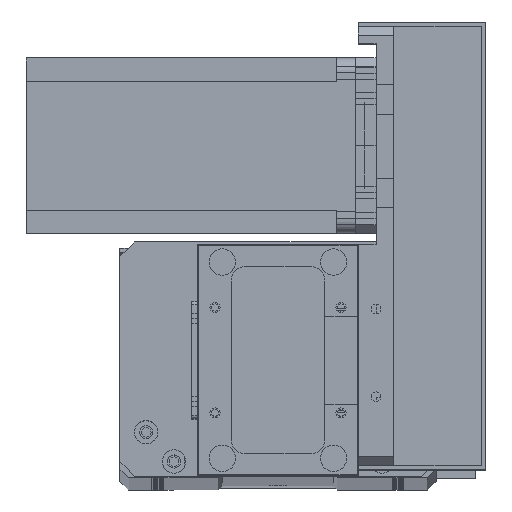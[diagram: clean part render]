
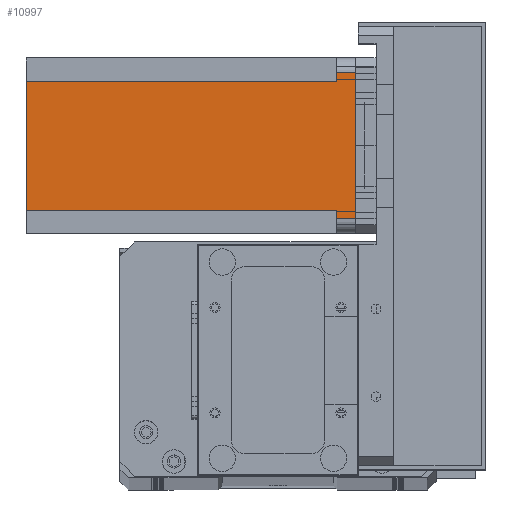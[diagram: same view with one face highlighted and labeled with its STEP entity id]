
A CAD part, top view. The second image highlights one B-rep face of the part: STEP entity #10997.
In plain terms, the highlighted planar face has unit normal (0, 0, 1) as drawn and (0, 1, 0) by its records, which use the part's own axes.
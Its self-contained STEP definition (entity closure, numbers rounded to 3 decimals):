
#1165 = EDGE_CURVE ( 'NONE', #12889, #5177, #16444, .T. ) ;
#2224 = CARTESIAN_POINT ( 'NONE',  ( 0., 60., -112.5 ) ) ;
#2310 = VERTEX_POINT ( 'NONE', #12654 ) ;
#2772 = PLANE ( 'NONE',  #24832 ) ;
#2968 = CARTESIAN_POINT ( 'NONE',  ( 55., 60., -112.5 ) ) ;
#3387 = CARTESIAN_POINT ( 'NONE',  ( 0., 60., 0. ) ) ;
#4370 = EDGE_CURVE ( 'NONE', #30077, #19371, #29351, .T. ) ;
#5177 = VERTEX_POINT ( 'NONE', #12394 ) ;
#5387 = DIRECTION ( 'NONE',  ( 0., 0., 1. ) ) ;
#6708 = LINE ( 'NONE', #14339, #12862 ) ;
#7615 = CARTESIAN_POINT ( 'NONE',  ( 8., 60., -6.5 ) ) ;
#8250 = DIRECTION ( 'NONE',  ( 0., 0., -1. ) ) ;
#8580 = CARTESIAN_POINT ( 'NONE',  ( 52., 60., -112.5 ) ) ;
#8841 = CARTESIAN_POINT ( 'NONE',  ( 8., 60., -112.5 ) ) ;
#8862 = CARTESIAN_POINT ( 'NONE',  ( 5., 60., -6.5 ) ) ;
#9194 = DIRECTION ( 'NONE',  ( 0., 0., -1. ) ) ;
#9281 = VECTOR ( 'NONE', #13978, 1000. ) ;
#9298 = DIRECTION ( 'NONE',  ( 0., 0., 1. ) ) ;
#9601 = CARTESIAN_POINT ( 'NONE',  ( 52., 60., -6.5 ) ) ;
#10028 = ORIENTED_EDGE ( 'NONE', *, *, #4370, .T. ) ;
#10235 = LINE ( 'NONE', #2968, #24968 ) ;
#10337 = VECTOR ( 'NONE', #16466, 1000. ) ;
#10372 = CARTESIAN_POINT ( 'NONE',  ( 55., 60., -6.5 ) ) ;
#10565 = ORIENTED_EDGE ( 'NONE', *, *, #14313, .T. ) ;
#10692 = EDGE_CURVE ( 'NONE', #30077, #13009, #6708, .T. ) ;
#10988 = VECTOR ( 'NONE', #14665, 1000. ) ;
#10997 = ADVANCED_FACE ( 'NONE', ( #25518 ), #2772, .T. ) ;
#12394 = CARTESIAN_POINT ( 'NONE',  ( 5., 60., 0. ) ) ;
#12654 = CARTESIAN_POINT ( 'NONE',  ( 52., 60., -112.5 ) ) ;
#12862 = VECTOR ( 'NONE', #9194, 1000. ) ;
#12889 = VERTEX_POINT ( 'NONE', #26581 ) ;
#13009 = VERTEX_POINT ( 'NONE', #8841 ) ;
#13978 = DIRECTION ( 'NONE',  ( -1., 0., 0. ) ) ;
#14114 = ORIENTED_EDGE ( 'NONE', *, *, #20905, .F. ) ;
#14313 = EDGE_CURVE ( 'NONE', #19371, #5177, #25798, .T. ) ;
#14339 = CARTESIAN_POINT ( 'NONE',  ( 8., 60., -112.5 ) ) ;
#14665 = DIRECTION ( 'NONE',  ( 1., 0., 0. ) ) ;
#16437 = DIRECTION ( 'NONE',  ( -1., 0., 0. ) ) ;
#16444 = LINE ( 'NONE', #3387, #29568 ) ;
#16466 = DIRECTION ( 'NONE',  ( 0., 0., 1. ) ) ;
#17283 = EDGE_LOOP ( 'NONE', ( #22762, #23320, #14114, #25706, #33929, #27299, #10028, #10565 ) ) ;
#17298 = LINE ( 'NONE', #8580, #10337 ) ;
#17788 = DIRECTION ( 'NONE',  ( -1., 0., 0. ) ) ;
#17971 = LINE ( 'NONE', #25062, #10988 ) ;
#19308 = VECTOR ( 'NONE', #9298, 1000. ) ;
#19371 = VERTEX_POINT ( 'NONE', #8862 ) ;
#19718 = CARTESIAN_POINT ( 'NONE',  ( 5., 60., -112.5 ) ) ;
#19869 = EDGE_CURVE ( 'NONE', #12889, #25497, #10235, .T. ) ;
#20552 = EDGE_CURVE ( 'NONE', #2310, #13009, #26986, .T. ) ;
#20874 = VECTOR ( 'NONE', #17788, 1000. ) ;
#20905 = EDGE_CURVE ( 'NONE', #26409, #25497, #17971, .T. ) ;
#21089 = DIRECTION ( 'NONE',  ( 0., 1., 0. ) ) ;
#22762 = ORIENTED_EDGE ( 'NONE', *, *, #1165, .F. ) ;
#23320 = ORIENTED_EDGE ( 'NONE', *, *, #19869, .T. ) ;
#24832 = AXIS2_PLACEMENT_3D ( 'NONE', #26222, #21089, #5387 ) ;
#24968 = VECTOR ( 'NONE', #8250, 1000. ) ;
#25062 = CARTESIAN_POINT ( 'NONE',  ( 52., 60., -6.5 ) ) ;
#25078 = EDGE_CURVE ( 'NONE', #2310, #26409, #17298, .T. ) ;
#25497 = VERTEX_POINT ( 'NONE', #10372 ) ;
#25518 = FACE_OUTER_BOUND ( 'NONE', #17283, .T. ) ;
#25706 = ORIENTED_EDGE ( 'NONE', *, *, #25078, .F. ) ;
#25798 = LINE ( 'NONE', #19718, #19308 ) ;
#26222 = CARTESIAN_POINT ( 'NONE',  ( 0., 60., -112.5 ) ) ;
#26409 = VERTEX_POINT ( 'NONE', #9601 ) ;
#26581 = CARTESIAN_POINT ( 'NONE',  ( 55., 60., 0. ) ) ;
#26986 = LINE ( 'NONE', #2224, #20874 ) ;
#27299 = ORIENTED_EDGE ( 'NONE', *, *, #10692, .F. ) ;
#29351 = LINE ( 'NONE', #32344, #9281 ) ;
#29568 = VECTOR ( 'NONE', #16437, 1000. ) ;
#30077 = VERTEX_POINT ( 'NONE', #7615 ) ;
#32344 = CARTESIAN_POINT ( 'NONE',  ( 8., 60., -6.5 ) ) ;
#33929 = ORIENTED_EDGE ( 'NONE', *, *, #20552, .T. ) ;
